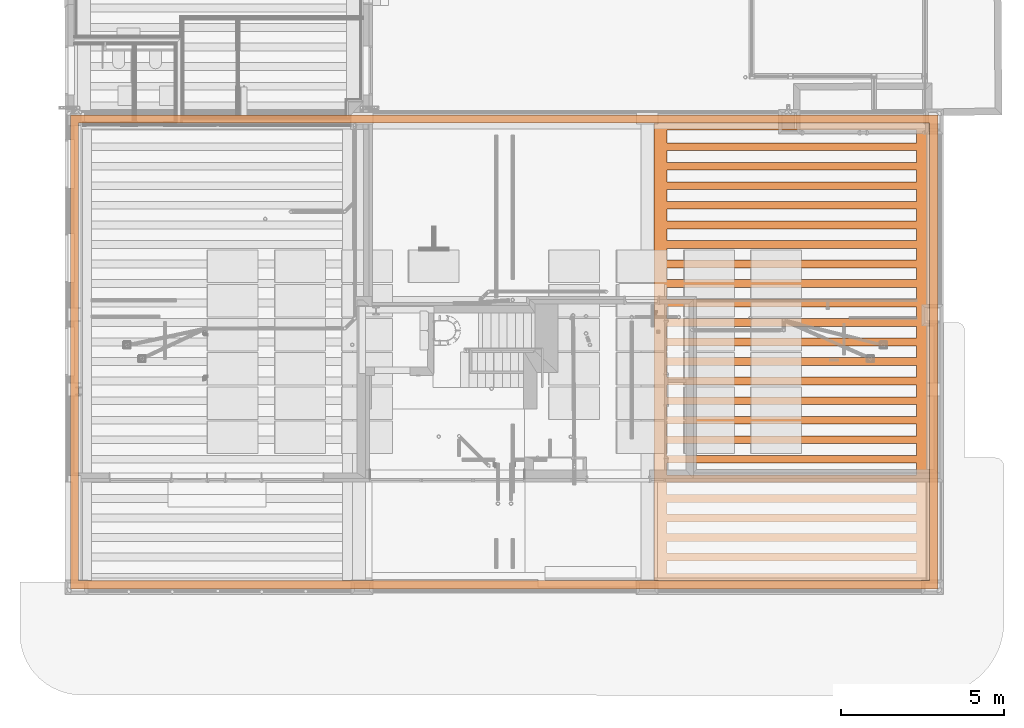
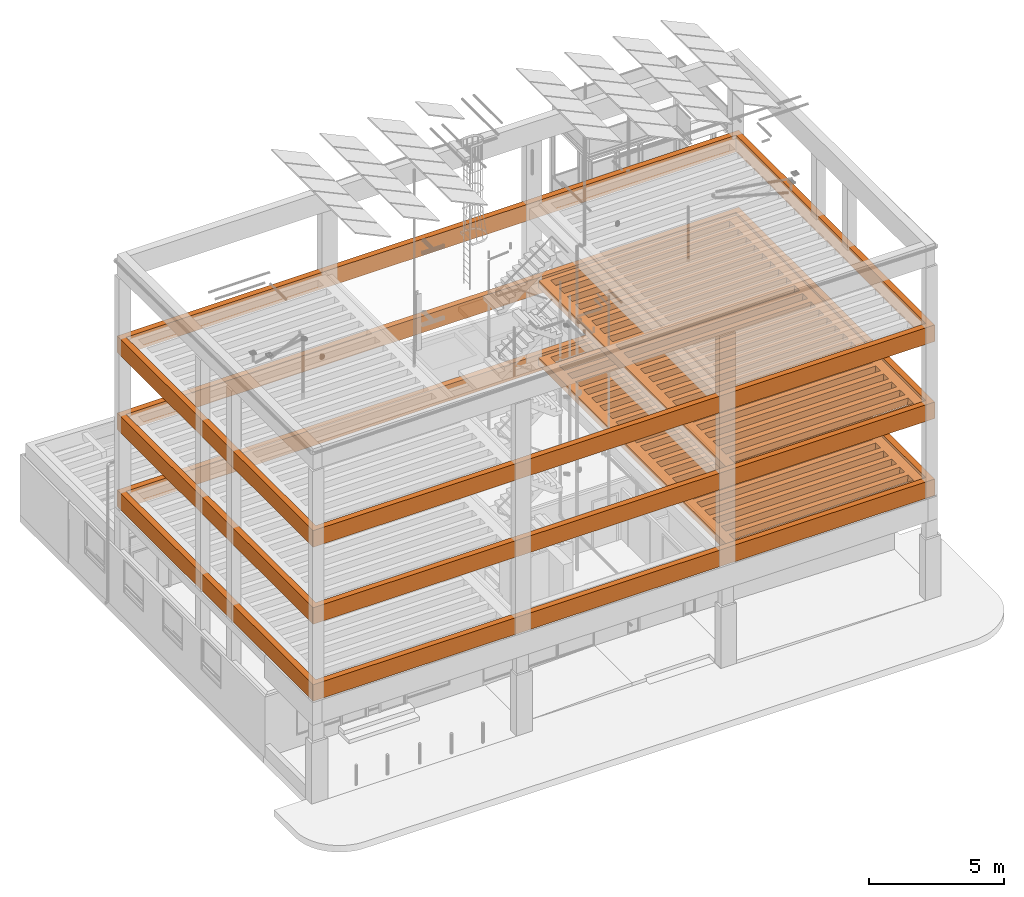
# One storey, part 107 of 108: 5 proxies.
"""IFC2X3 building model written with IfcOpenShell, lengths in metres."""

from ifc_helpers import new_model, entity, si_unit, converted_unit, derived_unit, money_unit, direction, frame, origin_with_axes, place, context, subcontext, project, spatial, faceted_brep, element, save


model = new_model("IFC2X3")

# Units and contexts
model_context = context("Model", 3, precision=1e-05, world=origin_with_axes(), true_north=direction((0.0, 1.0)))
body_context = subcontext(model_context, "Body", "Model", "MODEL_VIEW", scale=1.0)
ifc_project = project(units=[si_unit("LENGTHUNIT", "METRE"), si_unit("AREAUNIT", "SQUARE_METRE"), si_unit("VOLUMEUNIT", "CUBIC_METRE"), si_unit("ABSORBEDDOSEUNIT", "GRAY"), si_unit("AMOUNTOFSUBSTANCEUNIT", "MOLE"), si_unit("DOSEEQUIVALENTUNIT", "SIEVERT"), si_unit("ELECTRICCAPACITANCEUNIT", "FARAD"), si_unit("ELECTRICCHARGEUNIT", "COULOMB"), si_unit("ELECTRICCONDUCTANCEUNIT", "SIEMENS"), si_unit("ELECTRICCURRENTUNIT", "AMPERE"), si_unit("ELECTRICRESISTANCEUNIT", "OHM"), si_unit("ELECTRICVOLTAGEUNIT", "VOLT"), si_unit("ENERGYUNIT", "JOULE"), si_unit("FORCEUNIT", "NEWTON"), si_unit("FREQUENCYUNIT", "HERTZ"), si_unit("ILLUMINANCEUNIT", "LUX"), si_unit("INDUCTANCEUNIT", "HENRY"), si_unit("LUMINOUSFLUXUNIT", "LUMEN"), si_unit("LUMINOUSINTENSITYUNIT", "CANDELA"), si_unit("MAGNETICFLUXDENSITYUNIT", "TESLA"), si_unit("MAGNETICFLUXUNIT", "WEBER"), si_unit("MASSUNIT", "GRAM"), converted_unit("PLANEANGLEUNIT", "degree", entity("IfcReal", 0.0174532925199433), si_unit("PLANEANGLEUNIT", "RADIAN"), dimensions=[0, 0, 0, 0, 0, 0, 0]), si_unit("POWERUNIT", "WATT"), si_unit("PRESSUREUNIT", "PASCAL"), si_unit("RADIOACTIVITYUNIT", "BECQUEREL"), si_unit("SOLIDANGLEUNIT", "STERADIAN"), si_unit("THERMODYNAMICTEMPERATUREUNIT", "KELVIN"), si_unit("TIMEUNIT", "SECOND"), derived_unit("ACCELERATIONUNIT", [(si_unit("LENGTHUNIT", "METRE"), 1), (si_unit("TIMEUNIT", "SECOND"), -2)]), derived_unit("ANGULARVELOCITYUNIT", [(converted_unit("PLANEANGLEUNIT", "degree", entity("IfcReal", 0.0174532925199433), si_unit("PLANEANGLEUNIT", "RADIAN"), dimensions=[0, 0, 0, 0, 0, 0, 0]), 1), (si_unit("TIMEUNIT", "SECOND"), -1)]), derived_unit("CURVATUREUNIT", [(converted_unit("PLANEANGLEUNIT", "degree", entity("IfcReal", 0.0174532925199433), si_unit("PLANEANGLEUNIT", "RADIAN"), dimensions=[0, 0, 0, 0, 0, 0, 0]), 1), (si_unit("LENGTHUNIT", "METRE"), -1)]), derived_unit("DYNAMICVISCOSITYUNIT", [(si_unit("PRESSUREUNIT", "PASCAL"), 1), (si_unit("TIMEUNIT", "SECOND"), 1)]), derived_unit("HEATFLUXDENSITYUNIT", [(si_unit("POWERUNIT", "WATT"), 1), (si_unit("LENGTHUNIT", "METRE"), -2)]), derived_unit("HEATINGVALUEUNIT", [(si_unit("ENERGYUNIT", "JOULE"), 1), (si_unit("MASSUNIT", "GRAM"), -1)]), derived_unit("INTEGERCOUNTRATEUNIT", [(si_unit("TIMEUNIT", "SECOND"), -1)]), derived_unit("IONCONCENTRATIONUNIT", [(si_unit("MASSUNIT", "GRAM"), 1), (si_unit("VOLUMEUNIT", "CUBIC_METRE"), -1)]), derived_unit("ISOTHERMALMOISTURECAPACITYUNIT", [(si_unit("VOLUMEUNIT", "CUBIC_METRE"), 1), (si_unit("MASSUNIT", "GRAM"), -1)]), derived_unit("KINEMATICVISCOSITYUNIT", [(si_unit("AREAUNIT", "SQUARE_METRE"), 1), (si_unit("TIMEUNIT", "SECOND"), -1)]), derived_unit("LINEARFORCEUNIT", [(si_unit("FORCEUNIT", "NEWTON"), 1), (si_unit("LENGTHUNIT", "METRE"), -1)]), derived_unit("LINEARMOMENTUNIT", [(si_unit("FORCEUNIT", "NEWTON"), 1), (si_unit("LENGTHUNIT", "METRE"), -1)]), derived_unit("LINEARSTIFFNESSUNIT", [(si_unit("FORCEUNIT", "NEWTON"), 1), (si_unit("LENGTHUNIT", "METRE"), -1)]), derived_unit("LINEARVELOCITYUNIT", [(si_unit("LENGTHUNIT", "METRE"), 1), (si_unit("TIMEUNIT", "SECOND"), -1)]), derived_unit("LUMINOUSINTENSITYDISTRIBUTIONUNIT", [(si_unit("LUMINOUSINTENSITYUNIT", "CANDELA"), 1), (si_unit("LUMINOUSFLUXUNIT", "LUMEN"), -1)]), derived_unit("MASSDENSITYUNIT", [(si_unit("MASSUNIT", "GRAM"), 1), (si_unit("VOLUMEUNIT", "CUBIC_METRE"), -1)]), derived_unit("MASSFLOWRATEUNIT", [(si_unit("MASSUNIT", "GRAM"), 1), (si_unit("TIMEUNIT", "SECOND"), -1)]), derived_unit("MASSPERLENGTHUNIT", [(si_unit("MASSUNIT", "GRAM"), 1), (si_unit("LENGTHUNIT", "METRE"), -1)]), derived_unit("MODULUSOFELASTICITYUNIT", [(si_unit("FORCEUNIT", "NEWTON"), 1), (si_unit("AREAUNIT", "SQUARE_METRE"), -1)]), derived_unit("MODULUSOFLINEARSUBGRADEREACTIONUNIT", [(si_unit("FORCEUNIT", "NEWTON"), 1), (si_unit("LENGTHUNIT", "METRE"), -2)]), derived_unit("MODULUSOFROTATIONALSUBGRADEREACTIONUNIT", [(si_unit("FORCEUNIT", "NEWTON"), 1), (si_unit("LENGTHUNIT", "METRE"), 1)]), derived_unit("MODULUSOFSUBGRADEREACTIONUNIT", [(si_unit("FORCEUNIT", "NEWTON"), 1), (si_unit("VOLUMEUNIT", "CUBIC_METRE"), -1)]), derived_unit("MOISTUREDIFFUSIVITYUNIT", [(si_unit("VOLUMEUNIT", "CUBIC_METRE"), 1), (si_unit("TIMEUNIT", "SECOND"), -1)]), derived_unit("MOLECULARWEIGHTUNIT", [(si_unit("MASSUNIT", "GRAM"), 1), (si_unit("AMOUNTOFSUBSTANCEUNIT", "MOLE"), -1)]), derived_unit("PLANARFORCEUNIT", [(si_unit("FORCEUNIT", "NEWTON"), 1), (si_unit("LENGTHUNIT", "METRE"), -2)]), derived_unit("ROTATIONALFREQUENCYUNIT", [(si_unit("TIMEUNIT", "SECOND"), -1)]), derived_unit("ROTATIONALMASSUNIT", [(si_unit("MASSUNIT", "GRAM"), 1), (si_unit("LENGTHUNIT", "METRE"), 2)]), derived_unit("ROTATIONALSTIFFNESSUNIT", [(si_unit("FORCEUNIT", "NEWTON"), 1), (si_unit("LENGTHUNIT", "METRE"), 1), (converted_unit("PLANEANGLEUNIT", "degree", entity("IfcReal", 0.0174532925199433), si_unit("PLANEANGLEUNIT", "RADIAN"), dimensions=[0, 0, 0, 0, 0, 0, 0]), -1)]), derived_unit("SECTIONAREAINTEGRALUNIT", [(si_unit("LENGTHUNIT", "METRE"), 5)]), derived_unit("SECTIONMODULUSUNIT", [(si_unit("LENGTHUNIT", "METRE"), 3)]), derived_unit("SHEARMODULUSUNIT", [(si_unit("FORCEUNIT", "NEWTON"), 1), (si_unit("AREAUNIT", "SQUARE_METRE"), -1)]), derived_unit("SOUNDPOWERUNIT", [(si_unit("ENERGYUNIT", "JOULE"), 1), (si_unit("TIMEUNIT", "SECOND"), -1)]), derived_unit("SPECIFICHEATCAPACITYUNIT", [(si_unit("FORCEUNIT", "NEWTON"), 1), (si_unit("MASSUNIT", "GRAM"), -1), (si_unit("THERMODYNAMICTEMPERATUREUNIT", "KELVIN"), -1)]), derived_unit("TEMPERATUREGRADIENTUNIT", [(si_unit("THERMODYNAMICTEMPERATUREUNIT", "KELVIN"), 1), (si_unit("LENGTHUNIT", "METRE"), -1)]), derived_unit("THERMALADMITTANCEUNIT", [(si_unit("POWERUNIT", "WATT"), 1), (si_unit("AREAUNIT", "SQUARE_METRE"), -1), (si_unit("THERMODYNAMICTEMPERATUREUNIT", "KELVIN"), -1)]), derived_unit("THERMALCONDUCTANCEUNIT", [(si_unit("POWERUNIT", "WATT"), 1), (si_unit("LENGTHUNIT", "METRE"), -1), (si_unit("THERMODYNAMICTEMPERATUREUNIT", "KELVIN"), -1)]), derived_unit("THERMALEXPANSIONCOEFFICIENTUNIT", [(si_unit("THERMODYNAMICTEMPERATUREUNIT", "KELVIN"), -1)]), derived_unit("THERMALRESISTANCEUNIT", [(si_unit("AREAUNIT", "SQUARE_METRE"), 1), (si_unit("POWERUNIT", "WATT"), -1)]), derived_unit("THERMALTRANSMITTANCEUNIT", [(si_unit("POWERUNIT", "WATT"), 1), (si_unit("AREAUNIT", "SQUARE_METRE"), -1), (si_unit("THERMODYNAMICTEMPERATUREUNIT", "KELVIN"), -1)]), derived_unit("TORQUEUNIT", [(si_unit("FORCEUNIT", "NEWTON"), 1), (si_unit("LENGTHUNIT", "METRE"), 1)]), derived_unit("VAPORPERMEABILITYUNIT", [(si_unit("MASSUNIT", "GRAM"), 1), (si_unit("TIMEUNIT", "SECOND"), -1)]), derived_unit("VOLUMETRICFLOWRATEUNIT", [(si_unit("VOLUMEUNIT", "CUBIC_METRE"), 1), (si_unit("TIMEUNIT", "SECOND"), -1)]), derived_unit("WARPINGCONSTANTUNIT", [(si_unit("LENGTHUNIT", "METRE"), 6)]), derived_unit("WARPINGMOMENTUNIT", [(si_unit("FORCEUNIT", "NEWTON"), 1), (si_unit("LENGTHUNIT", "METRE"), 2)]), money_unit("GBP")], contexts=[model_context])

# Site, building, storey
site_placement = place(None, origin_with_axes())
site = spatial("IfcSite", under=ifc_project, at=site_placement, Name="Site", CompositionType="ELEMENT")
building_placement = place(site_placement, origin_with_axes())
building = spatial("IfcBuilding", under=site, at=building_placement, Name="Building01", CompositionType="ELEMENT")
storey_placement = place(building_placement, origin_with_axes())
storey = spatial("IfcBuildingStorey", under=building, at=storey_placement, Name="GF", CompositionType="ELEMENT", Elevation=0.0)

# Proxies
proxy_1_placement = place(storey_placement, frame((13.49, 7.45, 8.214999), z_axis=(0.0, 0.0, 1.0), x_axis=(1.0, 0.0, 0.0)))
element("IfcBuildingElementProxy", 1, at=proxy_1_placement, inside=storey, context=body_context, shape_type="Brep", body=[
    faceted_brep([(13.07, -7.28, -0.375), (-13.07, -7.28, -0.375), (-13.07, -7.03, -0.375), (13.07, -7.03, -0.375), (13.07, -7.28, 0.375), (-13.07, -7.28, 0.375), (13.07, -7.03, 0.375), (-13.07, -7.03, 0.375)], [[[0, 1, 2, 3]], [[4, 5, 1, 0]], [[6, 7, 5, 4]], [[3, 2, 7, 6]], [[1, 5, 7, 2]], [[3, 6, 4, 0]]]),
    faceted_brep([(13.32, 7.28, -0.375), (13.32, -7.28, -0.375), (13.07, -7.28, -0.375), (13.07, 7.28, -0.375), (13.32, 7.28, 0.375), (13.32, -7.28, 0.375), (13.07, 7.28, 0.375), (13.07, -7.28, 0.375)], [[[0, 1, 2, 3]], [[4, 5, 1, 0]], [[6, 7, 5, 4]], [[3, 2, 7, 6]], [[1, 5, 7, 2]], [[3, 6, 4, 0]]]),
    faceted_brep([(13.07, 7.03, -0.375), (-13.07, 7.03, -0.375), (-13.07, 7.28, -0.375), (13.07, 7.28, -0.375), (13.07, 7.03, 0.375), (-13.07, 7.03, 0.375), (13.07, 7.28, 0.375), (-13.07, 7.28, 0.375)], [[[0, 1, 2, 3]], [[4, 5, 1, 0]], [[6, 7, 5, 4]], [[3, 2, 7, 6]], [[1, 5, 7, 2]], [[3, 6, 4, 0]]]),
    faceted_brep([(-13.07, 7.28, -0.375), (-13.07, -7.28, -0.375), (-13.32, -7.28, -0.375), (-13.32, 7.28, -0.375), (-13.07, 7.28, 0.375), (-13.07, -7.28, 0.375), (-13.32, 7.28, 0.375), (-13.32, -7.28, 0.375)], [[[0, 1, 2, 3]], [[4, 5, 1, 0]], [[6, 7, 5, 4]], [[3, 2, 7, 6]], [[1, 5, 7, 2]], [[3, 6, 4, 0]]]),
])
proxy_2_placement = place(storey_placement, frame((13.49, 7.45, 4.725), z_axis=(0.0, 0.0, 1.0), x_axis=(1.0, 0.0, 0.0)))
element("IfcBuildingElementProxy", 2, at=proxy_2_placement, inside=storey, context=body_context, shape_type="Brep", body=[
    faceted_brep([(-13.07, 7.28, -0.375), (-13.07, -7.28, -0.375), (-13.32, -7.28, -0.375), (-13.32, 7.28, -0.375), (-13.07, 7.28, 0.375), (-13.07, -7.28, 0.375), (-13.32, 7.28, 0.375), (-13.32, -7.28, 0.375)], [[[0, 1, 2, 3]], [[4, 5, 1, 0]], [[6, 7, 5, 4]], [[3, 2, 7, 6]], [[1, 5, 7, 2]], [[3, 6, 4, 0]]]),
    faceted_brep([(13.07, 7.03, -0.375), (-13.07, 7.03, -0.375), (-13.07, 7.28, -0.375), (13.07, 7.28, -0.375), (13.07, 7.03, 0.375), (-13.07, 7.03, 0.375), (13.07, 7.28, 0.375), (-13.07, 7.28, 0.375)], [[[0, 1, 2, 3]], [[4, 5, 1, 0]], [[6, 7, 5, 4]], [[3, 2, 7, 6]], [[1, 5, 7, 2]], [[3, 6, 4, 0]]]),
    faceted_brep([(13.07, -7.28, -0.375), (-13.07, -7.28, -0.375), (-13.07, -7.03, -0.375), (13.07, -7.03, -0.375), (13.07, -7.28, 0.375), (-13.07, -7.28, 0.375), (13.07, -7.03, 0.375), (-13.07, -7.03, 0.375)], [[[0, 1, 2, 3]], [[4, 5, 1, 0]], [[6, 7, 5, 4]], [[3, 2, 7, 6]], [[1, 5, 7, 2]], [[3, 6, 4, 0]]]),
    faceted_brep([(13.32, 7.28, -0.375), (13.32, -7.28, -0.375), (13.07, -7.28, -0.375), (13.07, 7.28, -0.375), (13.32, 7.28, 0.375), (13.32, -7.28, 0.375), (13.07, 7.28, 0.375), (13.07, -7.28, 0.375)], [[[0, 1, 2, 3]], [[4, 5, 1, 0]], [[6, 7, 5, 4]], [[3, 2, 7, 6]], [[1, 5, 7, 2]], [[3, 6, 4, 0]]]),
])
proxy_3_placement = place(storey_placement, frame((13.49, 7.45, 11.705), z_axis=(0.0, 0.0, 1.0), x_axis=(1.0, 0.0, 0.0)))
element("IfcBuildingElementProxy", 3, at=proxy_3_placement, inside=storey, context=body_context, shape_type="Brep", body=[
    faceted_brep([(13.07, -7.28, -0.375), (-13.07, -7.28, -0.375), (-13.07, -7.03, -0.375), (13.07, -7.03, -0.375), (13.07, -7.28, 0.375), (-13.07, -7.28, 0.375), (13.07, -7.03, 0.375), (-13.07, -7.03, 0.375)], [[[0, 1, 2, 3]], [[4, 5, 1, 0]], [[6, 7, 5, 4]], [[3, 2, 7, 6]], [[1, 5, 7, 2]], [[3, 6, 4, 0]]]),
    faceted_brep([(-13.07, 7.28, -0.375), (-13.07, -7.28, -0.375), (-13.32, -7.28, -0.375), (-13.32, 7.28, -0.375), (-13.07, 7.28, 0.375), (-13.07, -7.28, 0.375), (-13.32, 7.28, 0.375), (-13.32, -7.28, 0.375)], [[[0, 1, 2, 3]], [[4, 5, 1, 0]], [[6, 7, 5, 4]], [[3, 2, 7, 6]], [[1, 5, 7, 2]], [[3, 6, 4, 0]]]),
    faceted_brep([(13.07, 7.03, -0.375), (-13.07, 7.03, -0.375), (-13.07, 7.28, -0.375), (13.07, 7.28, -0.375), (13.07, 7.03, 0.375), (-13.07, 7.03, 0.375), (13.07, 7.28, 0.375), (-13.07, 7.28, 0.375)], [[[0, 1, 2, 3]], [[4, 5, 1, 0]], [[6, 7, 5, 4]], [[3, 2, 7, 6]], [[1, 5, 7, 2]], [[3, 6, 4, 0]]]),
    faceted_brep([(13.32, 7.28, -0.375), (13.32, -7.28, -0.375), (13.07, -7.28, -0.375), (13.07, 7.28, -0.375), (13.32, 7.28, 0.375), (13.32, -7.28, 0.375), (13.07, 7.28, 0.375), (13.07, -7.28, 0.375)], [[[0, 1, 2, 3]], [[4, 5, 1, 0]], [[6, 7, 5, 4]], [[3, 2, 7, 6]], [[1, 5, 7, 2]], [[3, 6, 4, 0]]]),
])
proxy_4_placement = place(storey_placement, frame((22.322501, 7.45, 4.81), z_axis=(0.0, 0.0, 1.0), x_axis=(1.0, 0.0, 0.0)))
element("IfcBuildingElementProxy", 4, at=proxy_4_placement, inside=storey, context=body_context, shape_type="Brep", body=[
    faceted_brep([(-3.839638, -7.03, -0.17), (3.8375, -7.03, -0.17), (3.8375, -7.03, 0.17), (-3.839638, -7.03, 0.17), (-3.839638, -6.858571, -0.17), (3.8375, -6.858571, -0.17), (-3.839638, -6.81, 0.17), (3.8375, -6.81, 0.17)], [[[0, 1, 2, 3]], [[4, 5, 1, 0]], [[6, 7, 5, 4]], [[3, 2, 7, 6]], [[1, 5, 7, 2]], [[3, 6, 4, 0]]]),
    faceted_brep([(-3.839638, 1.428572, -0.17), (3.8375, 1.428572, -0.17), (3.8375, 1.38, 0.17), (-3.839638, 1.38, 0.17), (-3.839638, 1.571429, -0.17), (3.8375, 1.571429, -0.17), (-3.839638, 1.62, 0.17), (3.8375, 1.62, 0.17)], [[[0, 1, 2, 3]], [[4, 5, 1, 0]], [[6, 7, 5, 4]], [[3, 2, 7, 6]], [[1, 5, 7, 2]], [[3, 6, 4, 0]]]),
    faceted_brep([(-3.839638, 0.828572, -0.17), (3.8375, 0.828572, -0.17), (3.8375, 0.78, 0.17), (-3.839638, 0.78, 0.17), (-3.839638, 0.971429, -0.17), (3.8375, 0.971429, -0.17), (-3.839638, 1.02, 0.17), (3.8375, 1.02, 0.17)], [[[0, 1, 2, 3]], [[4, 5, 1, 0]], [[6, 7, 5, 4]], [[3, 2, 7, 6]], [[1, 5, 7, 2]], [[3, 6, 4, 0]]]),
    faceted_brep([(-3.839638, -0.371428, -0.17), (3.8375, -0.371428, -0.17), (3.8375, -0.42, 0.17), (-3.839638, -0.42, 0.17), (-3.839638, -0.228571, -0.17), (3.8375, -0.228571, -0.17), (-3.839638, -0.18, 0.17), (3.8375, -0.18, 0.17)], [[[0, 1, 2, 3]], [[4, 5, 1, 0]], [[6, 7, 5, 4]], [[3, 2, 7, 6]], [[1, 5, 7, 2]], [[3, 6, 4, 0]]]),
    faceted_brep([(-3.839638, -0.971428, -0.17), (3.8375, -0.971428, -0.17), (3.8375, -1.02, 0.17), (-3.839638, -1.02, 0.17), (-3.839638, -0.828571, -0.17), (3.8375, -0.828571, -0.17), (-3.839638, -0.78, 0.17), (3.8375, -0.78, 0.17)], [[[0, 1, 2, 3]], [[4, 5, 1, 0]], [[6, 7, 5, 4]], [[3, 2, 7, 6]], [[1, 5, 7, 2]], [[3, 6, 4, 0]]]),
    faceted_brep([(-3.839638, 0.228572, -0.17), (3.8375, 0.228572, -0.17), (3.8375, 0.18, 0.17), (-3.839638, 0.18, 0.17), (-3.839638, 0.371429, -0.17), (3.8375, 0.371429, -0.17), (-3.839638, 0.42, 0.17), (3.8375, 0.42, 0.17)], [[[0, 1, 2, 3]], [[4, 5, 1, 0]], [[6, 7, 5, 4]], [[3, 2, 7, 6]], [[1, 5, 7, 2]], [[3, 6, 4, 0]]]),
    faceted_brep([(-3.839638, -2.171428, -0.17), (3.8375, -2.171428, -0.17), (3.8375, -2.22, 0.17), (-3.839638, -2.22, 0.17), (-3.839638, -2.028571, -0.17), (3.8375, -2.028571, -0.17), (-3.839638, -1.98, 0.17), (3.8375, -1.98, 0.17)], [[[0, 1, 2, 3]], [[4, 5, 1, 0]], [[6, 7, 5, 4]], [[3, 2, 7, 6]], [[1, 5, 7, 2]], [[3, 6, 4, 0]]]),
    faceted_brep([(-3.839638, -2.771428, -0.17), (3.8375, -2.771428, -0.17), (3.8375, -2.82, 0.17), (-3.839638, -2.82, 0.17), (-3.839638, -2.628571, -0.17), (3.8375, -2.628571, -0.17), (-3.839638, -2.58, 0.17), (3.8375, -2.58, 0.17)], [[[0, 1, 2, 3]], [[4, 5, 1, 0]], [[6, 7, 5, 4]], [[3, 2, 7, 6]], [[1, 5, 7, 2]], [[3, 6, 4, 0]]]),
    faceted_brep([(-3.839638, -1.571428, -0.17), (3.8375, -1.571428, -0.17), (3.8375, -1.62, 0.17), (-3.839638, -1.62, 0.17), (-3.839638, -1.428571, -0.17), (3.8375, -1.428571, -0.17), (-3.839638, -1.38, 0.17), (3.8375, -1.38, 0.17)], [[[0, 1, 2, 3]], [[4, 5, 1, 0]], [[6, 7, 5, 4]], [[3, 2, 7, 6]], [[1, 5, 7, 2]], [[3, 6, 4, 0]]]),
    faceted_brep([(-3.839638, -3.971428, -0.17), (3.8375, -3.971428, -0.17), (3.8375, -4.02, 0.17), (-3.839638, -4.02, 0.17), (-3.839638, -3.828571, -0.17), (3.8375, -3.828571, -0.17), (-3.839638, -3.78, 0.17), (3.8375, -3.78, 0.17)], [[[0, 1, 2, 3]], [[4, 5, 1, 0]], [[6, 7, 5, 4]], [[3, 2, 7, 6]], [[1, 5, 7, 2]], [[3, 6, 4, 0]]]),
    faceted_brep([(-3.839638, -4.571428, -0.17), (3.8375, -4.571428, -0.17), (3.8375, -4.62, 0.17), (-3.839638, -4.62, 0.17), (-3.839638, -4.428571, -0.17), (3.8375, -4.428571, -0.17), (-3.839638, -4.38, 0.17), (3.8375, -4.38, 0.17)], [[[0, 1, 2, 3]], [[4, 5, 1, 0]], [[6, 7, 5, 4]], [[3, 2, 7, 6]], [[1, 5, 7, 2]], [[3, 6, 4, 0]]]),
    faceted_brep([(-3.839638, -3.371428, -0.17), (3.8375, -3.371428, -0.17), (3.8375, -3.42, 0.17), (-3.839638, -3.42, 0.17), (-3.839638, -3.228571, -0.17), (3.8375, -3.228571, -0.17), (-3.839638, -3.18, 0.17), (3.8375, -3.18, 0.17)], [[[0, 1, 2, 3]], [[4, 5, 1, 0]], [[6, 7, 5, 4]], [[3, 2, 7, 6]], [[1, 5, 7, 2]], [[3, 6, 4, 0]]]),
    faceted_brep([(-3.839638, -5.771428, -0.17), (3.8375, -5.771428, -0.17), (3.8375, -5.82, 0.17), (-3.839638, -5.82, 0.17), (-3.839638, -5.628571, -0.17), (3.8375, -5.628571, -0.17), (-3.839638, -5.58, 0.17), (3.8375, -5.58, 0.17)], [[[0, 1, 2, 3]], [[4, 5, 1, 0]], [[6, 7, 5, 4]], [[3, 2, 7, 6]], [[1, 5, 7, 2]], [[3, 6, 4, 0]]]),
    faceted_brep([(-3.839638, -6.371428, -0.17), (3.8375, -6.371428, -0.17), (3.8375, -6.42, 0.17), (-3.839638, -6.42, 0.17), (-3.839638, -6.228571, -0.17), (3.8375, -6.228571, -0.17), (-3.839638, -6.18, 0.17), (3.8375, -6.18, 0.17)], [[[0, 1, 2, 3]], [[4, 5, 1, 0]], [[6, 7, 5, 4]], [[3, 2, 7, 6]], [[1, 5, 7, 2]], [[3, 6, 4, 0]]]),
    faceted_brep([(-3.839638, -5.171428, -0.17), (3.8375, -5.171428, -0.17), (3.8375, -5.22, 0.17), (-3.839638, -5.22, 0.17), (-3.839638, -5.028571, -0.17), (3.8375, -5.028571, -0.17), (-3.839638, -4.98, 0.17), (3.8375, -4.98, 0.17)], [[[0, 1, 2, 3]], [[4, 5, 1, 0]], [[6, 7, 5, 4]], [[3, 2, 7, 6]], [[1, 5, 7, 2]], [[3, 6, 4, 0]]]),
    faceted_brep([(-3.839638, 7.03, 0.17), (3.8375, 7.03, 0.17), (3.8375, 7.03, -0.17), (-3.839638, 7.03, -0.17), (-3.839638, 6.81, 0.17), (3.8375, 6.81, 0.17), (-3.839638, 6.858572, -0.17), (3.8375, 6.858572, -0.17)], [[[0, 1, 2, 3]], [[4, 5, 1, 0]], [[6, 7, 5, 4]], [[3, 2, 7, 6]], [[1, 5, 7, 2]], [[3, 6, 4, 0]]]),
    faceted_brep([(-3.839638, 5.028572, -0.17), (3.8375, 5.028572, -0.17), (3.8375, 4.98, 0.17), (-3.839638, 4.98, 0.17), (-3.839638, 5.171429, -0.17), (3.8375, 5.171429, -0.17), (-3.839638, 5.22, 0.17), (3.8375, 5.22, 0.17)], [[[0, 1, 2, 3]], [[4, 5, 1, 0]], [[6, 7, 5, 4]], [[3, 2, 7, 6]], [[1, 5, 7, 2]], [[3, 6, 4, 0]]]),
    faceted_brep([(-3.839638, 4.428572, -0.17), (3.8375, 4.428572, -0.17), (3.8375, 4.38, 0.17), (-3.839638, 4.38, 0.17), (-3.839638, 4.571429, -0.17), (3.8375, 4.571429, -0.17), (-3.839638, 4.62, 0.17), (3.8375, 4.62, 0.17)], [[[0, 1, 2, 3]], [[4, 5, 1, 0]], [[6, 7, 5, 4]], [[3, 2, 7, 6]], [[1, 5, 7, 2]], [[3, 6, 4, 0]]]),
    faceted_brep([(-3.839638, 6.228572, -0.17), (3.8375, 6.228572, -0.17), (3.8375, 6.18, 0.17), (-3.839638, 6.18, 0.17), (-3.839638, 6.371429, -0.17), (3.8375, 6.371429, -0.17), (-3.839638, 6.42, 0.17), (3.8375, 6.42, 0.17)], [[[0, 1, 2, 3]], [[4, 5, 1, 0]], [[6, 7, 5, 4]], [[3, 2, 7, 6]], [[1, 5, 7, 2]], [[3, 6, 4, 0]]]),
    faceted_brep([(-3.839638, 5.628572, -0.17), (3.8375, 5.628572, -0.17), (3.8375, 5.58, 0.17), (-3.839638, 5.58, 0.17), (-3.839638, 5.771429, -0.17), (3.8375, 5.771429, -0.17), (-3.839638, 5.82, 0.17), (3.8375, 5.82, 0.17)], [[[0, 1, 2, 3]], [[4, 5, 1, 0]], [[6, 7, 5, 4]], [[3, 2, 7, 6]], [[1, 5, 7, 2]], [[3, 6, 4, 0]]]),
    faceted_brep([(-3.839638, 3.228572, -0.17), (3.8375, 3.228572, -0.17), (3.8375, 3.18, 0.17), (-3.839638, 3.18, 0.17), (-3.839638, 3.371429, -0.17), (3.8375, 3.371429, -0.17), (-3.839638, 3.42, 0.17), (3.8375, 3.42, 0.17)], [[[0, 1, 2, 3]], [[4, 5, 1, 0]], [[6, 7, 5, 4]], [[3, 2, 7, 6]], [[1, 5, 7, 2]], [[3, 6, 4, 0]]]),
    faceted_brep([(-3.839638, 2.628572, -0.17), (3.8375, 2.628572, -0.17), (3.8375, 2.58, 0.17), (-3.839638, 2.58, 0.17), (-3.839638, 2.771429, -0.17), (3.8375, 2.771429, -0.17), (-3.839638, 2.82, 0.17), (3.8375, 2.82, 0.17)], [[[0, 1, 2, 3]], [[4, 5, 1, 0]], [[6, 7, 5, 4]], [[3, 2, 7, 6]], [[1, 5, 7, 2]], [[3, 6, 4, 0]]]),
    faceted_brep([(-3.839638, 3.828572, -0.17), (3.8375, 3.828572, -0.17), (3.8375, 3.78, 0.17), (-3.839638, 3.78, 0.17), (-3.839638, 3.971429, -0.17), (3.8375, 3.971429, -0.17), (-3.839638, 4.02, 0.17), (3.8375, 4.02, 0.17)], [[[0, 1, 2, 3]], [[4, 5, 1, 0]], [[6, 7, 5, 4]], [[3, 2, 7, 6]], [[1, 5, 7, 2]], [[3, 6, 4, 0]]]),
    faceted_brep([(-3.839638, 2.028572, -0.17), (3.8375, 2.028572, -0.17), (3.8375, 1.98, 0.17), (-3.839638, 1.98, 0.17), (-3.839638, 2.171429, -0.17), (3.8375, 2.171429, -0.17), (-3.839638, 2.22, 0.17), (3.8375, 2.22, 0.17)], [[[0, 1, 2, 3]], [[4, 5, 1, 0]], [[6, 7, 5, 4]], [[3, 2, 7, 6]], [[1, 5, 7, 2]], [[3, 6, 4, 0]]]),
    faceted_brep([(4.2375, 7.03, -0.17), (4.2375, -7.03, -0.17), (3.8375, -7.03, -0.17), (3.8375, 7.03, -0.17), (4.2375, 7.03, 0.17), (4.2375, -7.03, 0.17), (3.8375, 7.03, 0.17), (3.8375, -7.03, 0.17)], [[[0, 1, 2, 3]], [[4, 5, 1, 0]], [[6, 7, 5, 4]], [[3, 2, 7, 6]], [[1, 5, 7, 2]], [[3, 6, 4, 0]]]),
    faceted_brep([(-3.837501, 7.03, -0.17), (-3.837501, -7.03, -0.17), (-4.237501, -7.03, -0.17), (-4.237501, 7.03, -0.17), (-3.837501, 7.03, 0.17), (-3.837501, -7.03, 0.17), (-4.237501, 7.03, 0.17), (-4.237501, -7.03, 0.17)], [[[0, 1, 2, 3]], [[4, 5, 1, 0]], [[6, 7, 5, 4]], [[3, 2, 7, 6]], [[1, 5, 7, 2]], [[3, 6, 4, 0]]]),
])
proxy_5_placement = place(storey_placement, frame((22.322501, 7.45, 8.3), z_axis=(0.0, 0.0, 1.0), x_axis=(1.0, 0.0, 0.0)))
element("IfcBuildingElementProxy", 5, at=proxy_5_placement, inside=storey, context=body_context, shape_type="Brep", body=[
    faceted_brep([(-3.839638, -7.03, -0.17), (3.8375, -7.03, -0.17), (3.8375, -7.03, 0.17), (-3.839638, -7.03, 0.17), (-3.839638, -6.858571, -0.17), (3.8375, -6.858571, -0.17), (-3.839638, -6.81, 0.17), (3.8375, -6.81, 0.17)], [[[0, 1, 2, 3]], [[4, 5, 1, 0]], [[6, 7, 5, 4]], [[3, 2, 7, 6]], [[1, 5, 7, 2]], [[3, 6, 4, 0]]]),
    faceted_brep([(-3.839638, 1.428572, -0.17), (3.8375, 1.428572, -0.17), (3.8375, 1.38, 0.17), (-3.839638, 1.38, 0.17), (-3.839638, 1.571429, -0.17), (3.8375, 1.571429, -0.17), (-3.839638, 1.62, 0.17), (3.8375, 1.62, 0.17)], [[[0, 1, 2, 3]], [[4, 5, 1, 0]], [[6, 7, 5, 4]], [[3, 2, 7, 6]], [[1, 5, 7, 2]], [[3, 6, 4, 0]]]),
    faceted_brep([(-3.839638, 0.828572, -0.17), (3.8375, 0.828572, -0.17), (3.8375, 0.78, 0.17), (-3.839638, 0.78, 0.17), (-3.839638, 0.971429, -0.17), (3.8375, 0.971429, -0.17), (-3.839638, 1.02, 0.17), (3.8375, 1.02, 0.17)], [[[0, 1, 2, 3]], [[4, 5, 1, 0]], [[6, 7, 5, 4]], [[3, 2, 7, 6]], [[1, 5, 7, 2]], [[3, 6, 4, 0]]]),
    faceted_brep([(-3.839638, -0.371428, -0.17), (3.8375, -0.371428, -0.17), (3.8375, -0.42, 0.17), (-3.839638, -0.42, 0.17), (-3.839638, -0.228571, -0.17), (3.8375, -0.228571, -0.17), (-3.839638, -0.18, 0.17), (3.8375, -0.18, 0.17)], [[[0, 1, 2, 3]], [[4, 5, 1, 0]], [[6, 7, 5, 4]], [[3, 2, 7, 6]], [[1, 5, 7, 2]], [[3, 6, 4, 0]]]),
    faceted_brep([(-3.839638, -0.971428, -0.17), (3.8375, -0.971428, -0.17), (3.8375, -1.02, 0.17), (-3.839638, -1.02, 0.17), (-3.839638, -0.828571, -0.17), (3.8375, -0.828571, -0.17), (-3.839638, -0.78, 0.17), (3.8375, -0.78, 0.17)], [[[0, 1, 2, 3]], [[4, 5, 1, 0]], [[6, 7, 5, 4]], [[3, 2, 7, 6]], [[1, 5, 7, 2]], [[3, 6, 4, 0]]]),
    faceted_brep([(-3.839638, 0.228572, -0.17), (3.8375, 0.228572, -0.17), (3.8375, 0.18, 0.17), (-3.839638, 0.18, 0.17), (-3.839638, 0.371429, -0.17), (3.8375, 0.371429, -0.17), (-3.839638, 0.42, 0.17), (3.8375, 0.42, 0.17)], [[[0, 1, 2, 3]], [[4, 5, 1, 0]], [[6, 7, 5, 4]], [[3, 2, 7, 6]], [[1, 5, 7, 2]], [[3, 6, 4, 0]]]),
    faceted_brep([(-3.839638, -2.171428, -0.17), (3.8375, -2.171428, -0.17), (3.8375, -2.22, 0.17), (-3.839638, -2.22, 0.17), (-3.839638, -2.028571, -0.17), (3.8375, -2.028571, -0.17), (-3.839638, -1.98, 0.17), (3.8375, -1.98, 0.17)], [[[0, 1, 2, 3]], [[4, 5, 1, 0]], [[6, 7, 5, 4]], [[3, 2, 7, 6]], [[1, 5, 7, 2]], [[3, 6, 4, 0]]]),
    faceted_brep([(-3.839638, -2.771428, -0.17), (3.8375, -2.771428, -0.17), (3.8375, -2.82, 0.17), (-3.839638, -2.82, 0.17), (-3.839638, -2.628571, -0.17), (3.8375, -2.628571, -0.17), (-3.839638, -2.58, 0.17), (3.8375, -2.58, 0.17)], [[[0, 1, 2, 3]], [[4, 5, 1, 0]], [[6, 7, 5, 4]], [[3, 2, 7, 6]], [[1, 5, 7, 2]], [[3, 6, 4, 0]]]),
    faceted_brep([(-3.839638, -1.571428, -0.17), (3.8375, -1.571428, -0.17), (3.8375, -1.62, 0.17), (-3.839638, -1.62, 0.17), (-3.839638, -1.428571, -0.17), (3.8375, -1.428571, -0.17), (-3.839638, -1.38, 0.17), (3.8375, -1.38, 0.17)], [[[0, 1, 2, 3]], [[4, 5, 1, 0]], [[6, 7, 5, 4]], [[3, 2, 7, 6]], [[1, 5, 7, 2]], [[3, 6, 4, 0]]]),
    faceted_brep([(-3.839638, -3.971428, -0.17), (3.8375, -3.971428, -0.17), (3.8375, -4.02, 0.17), (-3.839638, -4.02, 0.17), (-3.839638, -3.828571, -0.17), (3.8375, -3.828571, -0.17), (-3.839638, -3.78, 0.17), (3.8375, -3.78, 0.17)], [[[0, 1, 2, 3]], [[4, 5, 1, 0]], [[6, 7, 5, 4]], [[3, 2, 7, 6]], [[1, 5, 7, 2]], [[3, 6, 4, 0]]]),
    faceted_brep([(-3.839638, -4.571428, -0.17), (3.8375, -4.571428, -0.17), (3.8375, -4.62, 0.17), (-3.839638, -4.62, 0.17), (-3.839638, -4.428571, -0.17), (3.8375, -4.428571, -0.17), (-3.839638, -4.38, 0.17), (3.8375, -4.38, 0.17)], [[[0, 1, 2, 3]], [[4, 5, 1, 0]], [[6, 7, 5, 4]], [[3, 2, 7, 6]], [[1, 5, 7, 2]], [[3, 6, 4, 0]]]),
    faceted_brep([(-3.839638, -3.371428, -0.17), (3.8375, -3.371428, -0.17), (3.8375, -3.42, 0.17), (-3.839638, -3.42, 0.17), (-3.839638, -3.228571, -0.17), (3.8375, -3.228571, -0.17), (-3.839638, -3.18, 0.17), (3.8375, -3.18, 0.17)], [[[0, 1, 2, 3]], [[4, 5, 1, 0]], [[6, 7, 5, 4]], [[3, 2, 7, 6]], [[1, 5, 7, 2]], [[3, 6, 4, 0]]]),
    faceted_brep([(-3.839638, -5.771428, -0.17), (3.8375, -5.771428, -0.17), (3.8375, -5.82, 0.17), (-3.839638, -5.82, 0.17), (-3.839638, -5.628571, -0.17), (3.8375, -5.628571, -0.17), (-3.839638, -5.58, 0.17), (3.8375, -5.58, 0.17)], [[[0, 1, 2, 3]], [[4, 5, 1, 0]], [[6, 7, 5, 4]], [[3, 2, 7, 6]], [[1, 5, 7, 2]], [[3, 6, 4, 0]]]),
    faceted_brep([(-3.839638, -6.371428, -0.17), (3.8375, -6.371428, -0.17), (3.8375, -6.42, 0.17), (-3.839638, -6.42, 0.17), (-3.839638, -6.228571, -0.17), (3.8375, -6.228571, -0.17), (-3.839638, -6.18, 0.17), (3.8375, -6.18, 0.17)], [[[0, 1, 2, 3]], [[4, 5, 1, 0]], [[6, 7, 5, 4]], [[3, 2, 7, 6]], [[1, 5, 7, 2]], [[3, 6, 4, 0]]]),
    faceted_brep([(-3.839638, -5.171428, -0.17), (3.8375, -5.171428, -0.17), (3.8375, -5.22, 0.17), (-3.839638, -5.22, 0.17), (-3.839638, -5.028571, -0.17), (3.8375, -5.028571, -0.17), (-3.839638, -4.98, 0.17), (3.8375, -4.98, 0.17)], [[[0, 1, 2, 3]], [[4, 5, 1, 0]], [[6, 7, 5, 4]], [[3, 2, 7, 6]], [[1, 5, 7, 2]], [[3, 6, 4, 0]]]),
    faceted_brep([(-3.839638, 7.03, 0.17), (3.8375, 7.03, 0.17), (3.8375, 7.03, -0.17), (-3.839638, 7.03, -0.17), (-3.839638, 6.81, 0.17), (3.8375, 6.81, 0.17), (-3.839638, 6.858572, -0.17), (3.8375, 6.858572, -0.17)], [[[0, 1, 2, 3]], [[4, 5, 1, 0]], [[6, 7, 5, 4]], [[3, 2, 7, 6]], [[1, 5, 7, 2]], [[3, 6, 4, 0]]]),
    faceted_brep([(-3.839638, 5.028572, -0.17), (3.8375, 5.028572, -0.17), (3.8375, 4.98, 0.17), (-3.839638, 4.98, 0.17), (-3.839638, 5.171429, -0.17), (3.8375, 5.171429, -0.17), (-3.839638, 5.22, 0.17), (3.8375, 5.22, 0.17)], [[[0, 1, 2, 3]], [[4, 5, 1, 0]], [[6, 7, 5, 4]], [[3, 2, 7, 6]], [[1, 5, 7, 2]], [[3, 6, 4, 0]]]),
    faceted_brep([(-3.839638, 4.428572, -0.17), (3.8375, 4.428572, -0.17), (3.8375, 4.38, 0.17), (-3.839638, 4.38, 0.17), (-3.839638, 4.571429, -0.17), (3.8375, 4.571429, -0.17), (-3.839638, 4.62, 0.17), (3.8375, 4.62, 0.17)], [[[0, 1, 2, 3]], [[4, 5, 1, 0]], [[6, 7, 5, 4]], [[3, 2, 7, 6]], [[1, 5, 7, 2]], [[3, 6, 4, 0]]]),
    faceted_brep([(-3.839638, 6.228572, -0.17), (3.8375, 6.228572, -0.17), (3.8375, 6.18, 0.17), (-3.839638, 6.18, 0.17), (-3.839638, 6.371429, -0.17), (3.8375, 6.371429, -0.17), (-3.839638, 6.42, 0.17), (3.8375, 6.42, 0.17)], [[[0, 1, 2, 3]], [[4, 5, 1, 0]], [[6, 7, 5, 4]], [[3, 2, 7, 6]], [[1, 5, 7, 2]], [[3, 6, 4, 0]]]),
    faceted_brep([(-3.839638, 5.628572, -0.17), (3.8375, 5.628572, -0.17), (3.8375, 5.58, 0.17), (-3.839638, 5.58, 0.17), (-3.839638, 5.771429, -0.17), (3.8375, 5.771429, -0.17), (-3.839638, 5.82, 0.17), (3.8375, 5.82, 0.17)], [[[0, 1, 2, 3]], [[4, 5, 1, 0]], [[6, 7, 5, 4]], [[3, 2, 7, 6]], [[1, 5, 7, 2]], [[3, 6, 4, 0]]]),
    faceted_brep([(-3.839638, 3.228572, -0.17), (3.8375, 3.228572, -0.17), (3.8375, 3.18, 0.17), (-3.839638, 3.18, 0.17), (-3.839638, 3.371429, -0.17), (3.8375, 3.371429, -0.17), (-3.839638, 3.42, 0.17), (3.8375, 3.42, 0.17)], [[[0, 1, 2, 3]], [[4, 5, 1, 0]], [[6, 7, 5, 4]], [[3, 2, 7, 6]], [[1, 5, 7, 2]], [[3, 6, 4, 0]]]),
    faceted_brep([(-3.839638, 2.628572, -0.17), (3.8375, 2.628572, -0.17), (3.8375, 2.58, 0.17), (-3.839638, 2.58, 0.17), (-3.839638, 2.771429, -0.17), (3.8375, 2.771429, -0.17), (-3.839638, 2.82, 0.17), (3.8375, 2.82, 0.17)], [[[0, 1, 2, 3]], [[4, 5, 1, 0]], [[6, 7, 5, 4]], [[3, 2, 7, 6]], [[1, 5, 7, 2]], [[3, 6, 4, 0]]]),
    faceted_brep([(-3.839638, 3.828572, -0.17), (3.8375, 3.828572, -0.17), (3.8375, 3.78, 0.17), (-3.839638, 3.78, 0.17), (-3.839638, 3.971429, -0.17), (3.8375, 3.971429, -0.17), (-3.839638, 4.02, 0.17), (3.8375, 4.02, 0.17)], [[[0, 1, 2, 3]], [[4, 5, 1, 0]], [[6, 7, 5, 4]], [[3, 2, 7, 6]], [[1, 5, 7, 2]], [[3, 6, 4, 0]]]),
    faceted_brep([(-3.839638, 2.028572, -0.17), (3.8375, 2.028572, -0.17), (3.8375, 1.98, 0.17), (-3.839638, 1.98, 0.17), (-3.839638, 2.171429, -0.17), (3.8375, 2.171429, -0.17), (-3.839638, 2.22, 0.17), (3.8375, 2.22, 0.17)], [[[0, 1, 2, 3]], [[4, 5, 1, 0]], [[6, 7, 5, 4]], [[3, 2, 7, 6]], [[1, 5, 7, 2]], [[3, 6, 4, 0]]]),
    faceted_brep([(4.2375, 7.03, -0.17), (4.2375, -7.03, -0.17), (3.8375, -7.03, -0.17), (3.8375, 7.03, -0.17), (4.2375, 7.03, 0.17), (4.2375, -7.03, 0.17), (3.8375, 7.03, 0.17), (3.8375, -7.03, 0.17)], [[[0, 1, 2, 3]], [[4, 5, 1, 0]], [[6, 7, 5, 4]], [[3, 2, 7, 6]], [[1, 5, 7, 2]], [[3, 6, 4, 0]]]),
    faceted_brep([(-3.837501, 7.03, -0.17), (-3.837501, -7.03, -0.17), (-4.237501, -7.03, -0.17), (-4.237501, 7.03, -0.17), (-3.837501, 7.03, 0.17), (-3.837501, -7.03, 0.17), (-4.237501, 7.03, 0.17), (-4.237501, -7.03, 0.17)], [[[0, 1, 2, 3]], [[4, 5, 1, 0]], [[6, 7, 5, 4]], [[3, 2, 7, 6]], [[1, 5, 7, 2]], [[3, 6, 4, 0]]]),
])

save(model, "model.ifc")
